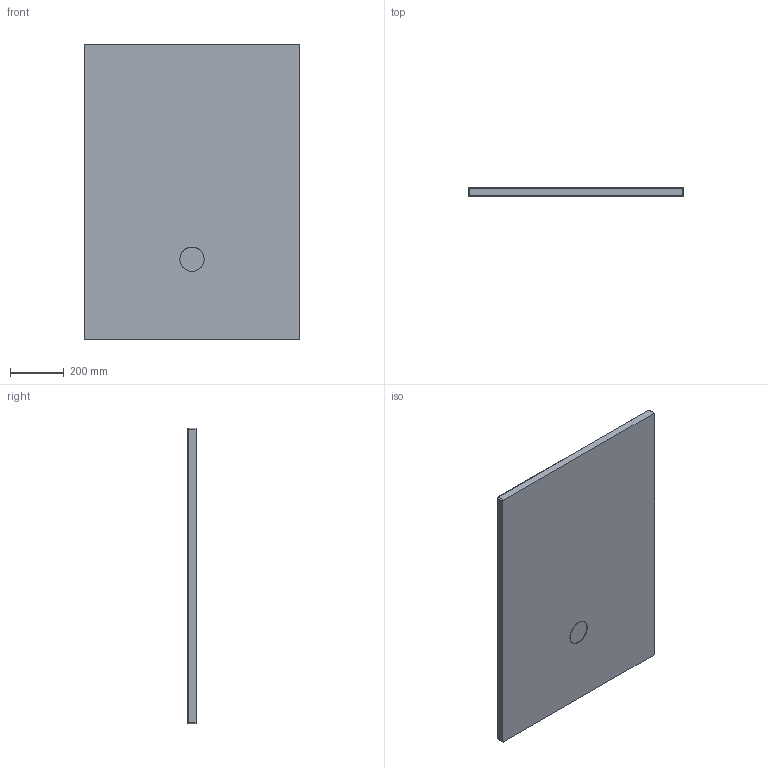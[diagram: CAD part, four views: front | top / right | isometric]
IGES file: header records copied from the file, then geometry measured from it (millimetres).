
Start section: SolidWorks IGES file using analytic representation for surfaces
Global section: file name: D:\Users\M.Szymanski\Desktop\Brodziki\Nias\B_M_NIAS_110x80x1,5.IGS; native system: SolidWorks 2011; preprocessor: SolidWorks 2011; author: M.Szymanski; date: 180222.141836; units: millimetre
Bounding box: 800 x 30 x 1100 mm (x, y, z)
Surface area: 1893747.4 mm2 (no closed solid volume)
Topology: 0 solids, 0 shells, 45 faces, 649 edges, 648 vertices
Faces by surface type: bspline 25, revolution 20
